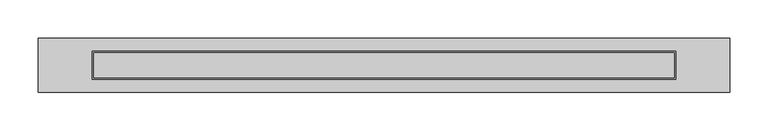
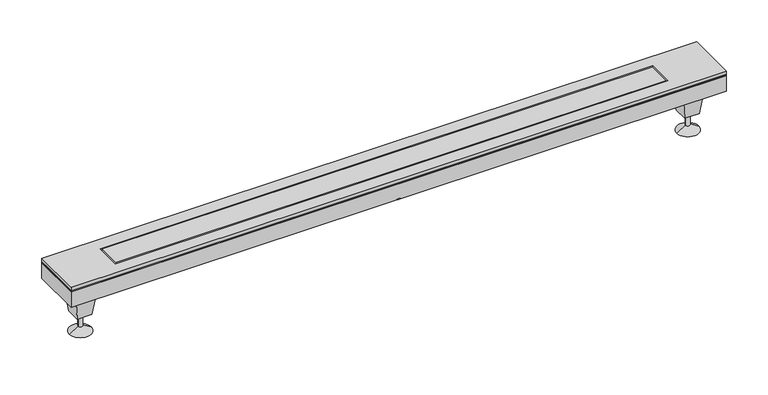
"""IFC4 building model written with IfcOpenShell, lengths in millimetres: sanitary terminal geometry, NLRS_PF_52_UN_XS Z4 Complete Set_Easydrain : XS-Z4 Brushed with M2 vertical outlet."""

from ifc_helpers import new_model, si_unit, frame, origin, place, context, project, spatial, polyline, circle_curve, outline, extrude, faceted_brep, source, transform, mapped, element, save
from ifc_brep_helpers import plane_surface, cylinder_surface, revolved_surface, advanced_brep


def sanitary_terminal_9ca81c68(model_context):
    return source(origin(), model_context, "Body", "SolidModel", [
        advanced_brep(
        [(420.5, 0.0, -69.0), (414.5, 0.0, -69.0), (417.5, 0.0, -69.0), (420.5, 0.0, -87.5), (414.5, 0.0, -87.5), (432.5, 0.0, -95.0), (402.5, 0.0, -95.0), (417.5, 0.0, -95.0)],
        [
            (0, 1, circle_curve(frame((417.5, 0.0, -69.0), z_axis=(0.0, 0.0, 1.0), x_axis=(-1.0, 0.0, 0.0)), 3.0)),
            (1, 2),
            (2, 0),
            (1, 0, circle_curve(frame((417.5, 0.0, -69.0), z_axis=(0.0, 0.0, 1.0), x_axis=(-1.0, 0.0, 0.0)), 3.0)),
            (3, 4, circle_curve(frame((417.5, 0.0, -87.5), z_axis=(0.0, 0.0, 1.0), x_axis=(-1.0, 0.0, 0.0)), 3.0)),
            (4, 1),
            (0, 3),
            (4, 3, circle_curve(frame((417.5, 0.0, -87.5), z_axis=(0.0, 0.0, 1.0), x_axis=(-1.0, 0.0, 0.0)), 3.0)),
            (5, 6, circle_curve(frame((417.5, 0.0, -95.0), z_axis=(0.0, 0.0, 1.0), x_axis=(-1.0, 0.0, 0.0)), 15.0)),
            (6, 4),
            (3, 5),
            (6, 5, circle_curve(frame((417.5, 0.0, -95.0), z_axis=(0.0, 0.0, 1.0), x_axis=(-1.0, 0.0, 0.0)), 15.0)),
            (7, 6),
            (5, 7),
        ],
        [
            plane_surface(frame((417.5, 0.0, -69.0), z_axis=(0.0, 0.0, 1.0), x_axis=(-1.0, 0.0, 0.0))),
            cylinder_surface(frame((417.5, 0.0, -103.1782032), z_axis=(0.0, 0.0, -1.0), x_axis=(-1.0, 0.0, 0.0)), 3.0),
            revolved_surface(polyline([(414.5, 0.0, -87.5), (402.5, 0.0, -95.0)]), (417.5, 0.0, -103.1782032), (0.0, 0.0, -1.0)),
            plane_surface(frame((417.5, 0.0, -95.0), z_axis=(0.0, 0.0, -1.0), x_axis=(-1.0, 0.0, 0.0))),
        ],
        [
            (0, [[1, 2, 3]]),
            (0, [[4, -3, -2]]),
            (1, [[5, 6, -1, 7]]),
            (1, [[8, -7, -4, -6]]),
            (2, [[9, 10, -5, 11]]),
            (2, [[12, -11, -8, -10]]),
            (3, [[13, -9, 14]]),
            (3, [[-14, -12, -13]]),
        ],
    ),
        faceted_brep([(407.5, 10.0, -69.0), (427.5, 10.0, -69.0), (427.5, -10.0, -69.0), (407.5, -10.0, -69.0), (402.5, 15.0, -29.0), (402.5, -15.0, -29.0), (432.5, -15.0, -29.0), (432.5, 15.0, -29.0)], [[[0, 1, 2, 3]], [[4, 5, 6, 7]], [[5, 4, 0, 3]], [[6, 5, 3, 2]], [[7, 6, 2, 1]], [[4, 7, 1, 0]]]),
        advanced_brep(
        [(-414.5, 0.0, -69.0), (-420.5, 0.0, -69.0), (-417.5, 0.0, -69.0), (-414.5, 0.0, -87.5), (-420.5, 0.0, -87.5), (-402.5, 0.0, -95.0), (-432.5, 0.0, -95.0), (-417.5, 0.0, -95.0)],
        [
            (0, 1, circle_curve(frame((-417.5, 0.0, -69.0), z_axis=(0.0, 0.0, 1.0), x_axis=(-1.0, 0.0, 0.0)), 3.0)),
            (1, 2),
            (2, 0),
            (1, 0, circle_curve(frame((-417.5, 0.0, -69.0), z_axis=(0.0, 0.0, 1.0), x_axis=(-1.0, 0.0, 0.0)), 3.0)),
            (3, 4, circle_curve(frame((-417.5, 0.0, -87.5), z_axis=(0.0, 0.0, 1.0), x_axis=(-1.0, 0.0, 0.0)), 3.0)),
            (4, 1),
            (0, 3),
            (4, 3, circle_curve(frame((-417.5, 0.0, -87.5), z_axis=(0.0, 0.0, 1.0), x_axis=(-1.0, 0.0, 0.0)), 3.0)),
            (5, 6, circle_curve(frame((-417.5, 0.0, -95.0), z_axis=(0.0, 0.0, 1.0), x_axis=(-1.0, 0.0, 0.0)), 15.0)),
            (6, 4),
            (3, 5),
            (6, 5, circle_curve(frame((-417.5, 0.0, -95.0), z_axis=(0.0, 0.0, 1.0), x_axis=(-1.0, 0.0, 0.0)), 15.0)),
            (7, 6),
            (5, 7),
        ],
        [
            plane_surface(frame((-417.5, 0.0, -69.0), z_axis=(0.0, 0.0, 1.0), x_axis=(-1.0, 0.0, 0.0))),
            cylinder_surface(frame((-417.5, 0.0, -103.1782032), z_axis=(0.0, 0.0, -1.0), x_axis=(-1.0, 0.0, 0.0)), 3.0),
            revolved_surface(polyline([(-420.5, 0.0, -87.5), (-432.5, 0.0, -95.0)]), (-417.5, 0.0, -103.1782032), (0.0, 0.0, -1.0)),
            plane_surface(frame((-417.5, 0.0, -95.0), z_axis=(0.0, 0.0, -1.0), x_axis=(-1.0, 0.0, 0.0))),
        ],
        [
            (0, [[1, 2, 3]]),
            (0, [[4, -3, -2]]),
            (1, [[5, 6, -1, 7]]),
            (1, [[8, -7, -4, -6]]),
            (2, [[9, 10, -5, 11]]),
            (2, [[12, -11, -8, -10]]),
            (3, [[13, -9, 14]]),
            (3, [[-14, -12, -13]]),
        ],
    ),
        faceted_brep([(-427.5, 10.0, -69.0), (-407.5, 10.0, -69.0), (-407.5, -10.0, -69.0), (-427.5, -10.0, -69.0), (-432.5, 15.0, -29.0), (-432.5, -15.0, -29.0), (-402.5, -15.0, -29.0), (-402.5, 15.0, -29.0)], [[[0, 1, 2, 3]], [[4, 5, 6, 7]], [[5, 4, 0, 3]], [[6, 5, 3, 2]], [[7, 6, 2, 1]], [[4, 7, 1, 0]]]),
        extrude(outline(polyline([(450.0, 35.0), (450.0, -35.0), (-450.0, -35.0), (-450.0, 35.0), (450.0, 35.0)])), frame((0.0, 0.0, -6.4659054), z_axis=(0.0, 0.0, 1.0), x_axis=(1.0, 0.0, 0.0)), (0.0, 0.0, 1.0), 1.4659054),
        advanced_brep(
        [(-35.0, 0.0, -29.0), (35.0, 0.0, -29.0), (-25.0, 0.0, -5.0), (25.0, 0.0, -5.0)],
        [
            (0, 1, circle_curve(frame((0.0, 0.0, -29.0), z_axis=(0.0, 0.0, -1.0), x_axis=(-1.0, 0.0, 0.0)), 35.0)),
            (1, 0, circle_curve(frame((0.0, 0.0, -29.0), z_axis=(0.0, 0.0, -1.0), x_axis=(1.0, 0.0, 0.0)), 35.0)),
            (2, 3, circle_curve(frame((0.0, 0.0, -5.0), z_axis=(0.0, 0.0, 1.0), x_axis=(1.0, 0.0, 0.0)), 25.0)),
            (3, 2, circle_curve(frame((0.0, 0.0, -5.0), z_axis=(0.0, 0.0, 1.0), x_axis=(-1.0, 0.0, 0.0)), 25.0)),
            (2, 0),
            (1, 3),
        ],
        [
            plane_surface(frame((0.0, 0.0, -29.0), z_axis=(0.0, 0.0, -1.0), x_axis=(0.0, -1.0, 0.0))),
            plane_surface(frame((0.0, 0.0, -5.0), z_axis=(0.0, 0.0, 1.0), x_axis=(0.0, -1.0, 0.0))),
            revolved_surface(polyline([(-25.0, 0.0, -5.0), (-35.0, 0.0, -29.0)]), (0.0, 0.0, 55.0), (0.0, 0.0, -1.0)),
            revolved_surface(polyline([(25.0, 0.0, -5.0), (35.0, 0.0, -29.0)]), (0.0, 0.0, 55.0), (0.0, 0.0, -1.0)),
        ],
        [
            (0, [[1, 2]]),
            (1, [[3, 4]]),
            (2, [[-3, 5, -2, 6]]),
            (3, [[-4, -6, -1, -5]]),
        ],
    ),
        extrude(outline(polyline([(450.0, 35.0), (450.0, -35.0), (-450.0, -35.0), (-450.0, 35.0), (450.0, 35.0)])), frame((0.0, 0.0, -29.0), z_axis=(0.0, 0.0, 1.0), x_axis=(1.0, 0.0, 0.0)), (0.0, 0.0, 1.0), 24.0),
        extrude(outline(polyline([(450.0, 35.0), (450.0, -35.0), (-450.0, -35.0), (-450.0, 35.0), (450.0, 35.0)]), holes=[polyline([(380.0, 18.0), (-380.0, 18.0), (-380.0, -18.0), (380.0, -18.0), (380.0, 18.0)])]), frame((0.0, 0.0, -5.0), z_axis=(0.0, 0.0, 1.0), x_axis=(1.0, 0.0, 0.0)), (0.0, 0.0, 1.0), 5.0),
        extrude(outline(polyline([(378.0, 16.0), (378.0, -16.0), (-378.0, -16.0), (-378.0, 16.0), (378.0, 16.0)])), frame((0.0, 0.0, -5.0), z_axis=(0.0, 0.0, 1.0), x_axis=(1.0, 0.0, 0.0)), (0.0, 0.0, 1.0), 5.0),
    ])


if __name__ == "__main__":
    model = new_model("IFC4")
    model_context = context("Model", 3, world=origin())
    ifc_project = project(units=[si_unit("LENGTHUNIT", "METRE", prefix="MILLI")], contexts=[model_context])
    site = spatial("IfcSite", under=ifc_project)
    building = spatial("IfcBuilding", under=site)
    placement = place(None, origin())
    sanitary_terminal_shape = sanitary_terminal_9ca81c68(model_context)
    element("IfcSanitaryTerminal", 1, ObjectType="NLRS_PF_52_UN_XS Z4 Complete Set_Easydrain : XS-Z4 Brushed with M2 vertical outlet", at=placement, inside=building, context=model_context, shape_type="MappedRepresentation", body=[
        mapped(sanitary_terminal_shape, transform((0.0, 0.0, 0.0), x_axis=(1.0, 0.0, 0.0), y_axis=(0.0, 1.0, 0.0), z_axis=(0.0, 0.0, 1.0))),
    ])
    save(model, "model.ifc")
